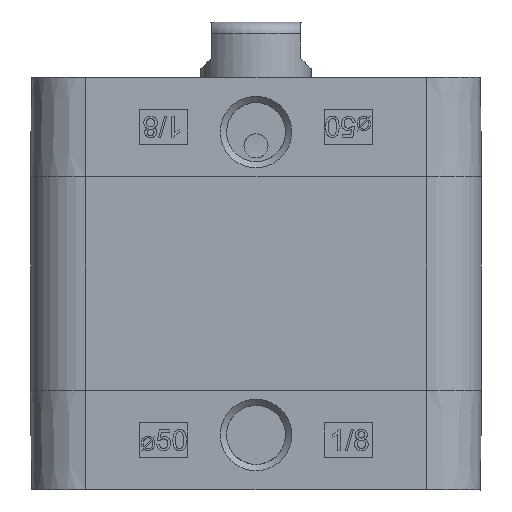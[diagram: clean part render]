
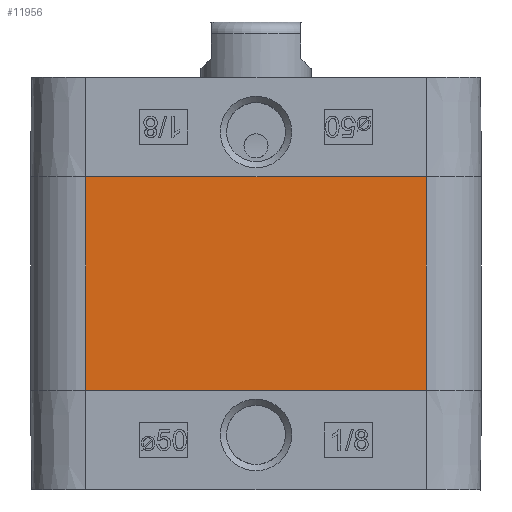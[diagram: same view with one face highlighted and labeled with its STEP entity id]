
A CAD part, left-side view. The second image highlights one B-rep face of the part: STEP entity #11956.
In plain terms, the highlighted planar face has unit normal (-1, 0, 0).
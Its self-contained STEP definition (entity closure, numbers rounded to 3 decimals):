
#1225=ORIENTED_EDGE('',*,*,#4772,.T.);
#1226=ORIENTED_EDGE('',*,*,#4771,.F.);
#1227=ORIENTED_EDGE('',*,*,#4773,.T.);
#1228=ORIENTED_EDGE('',*,*,#4774,.T.);
#4771=EDGE_CURVE('',#6544,#6543,#7759,.T.);
#4772=EDGE_CURVE('',#6545,#6543,#7760,.T.);
#4773=EDGE_CURVE('',#6544,#6546,#7761,.T.);
#4774=EDGE_CURVE('',#6546,#6545,#7762,.T.);
#6543=VERTEX_POINT('',#21604);
#6544=VERTEX_POINT('',#21606);
#6545=VERTEX_POINT('',#21610);
#6546=VERTEX_POINT('',#21612);
#7759=LINE('',#21607,#8775);
#7760=LINE('',#21609,#8776);
#7761=LINE('',#21611,#8777);
#7762=LINE('',#21613,#8778);
#8775=VECTOR('',#18331,1000.);
#8776=VECTOR('',#18334,1000.);
#8777=VECTOR('',#18335,1000.);
#8778=VECTOR('',#18336,1000.);
#9784=EDGE_LOOP('',(#1225,#1226,#1227,#1228));
#10702=FACE_BOUND('',#9784,.T.);
#11617=PLANE('',#17180);
#11956=ADVANCED_FACE('',(#10702),#11617,.T.);
#17180=AXIS2_PLACEMENT_3D('',#21608,#18332,#18333);
#18331=DIRECTION('',(0.,0.,1.));
#18332=DIRECTION('',(-1.,0.,0.));
#18333=DIRECTION('',(0.,0.,1.));
#18334=DIRECTION('',(0.,1.,0.));
#18335=DIRECTION('',(0.,-1.,0.));
#18336=DIRECTION('',(0.,0.,1.));
#21604=CARTESIAN_POINT('',(-32.75,24.75,31.));
#21606=CARTESIAN_POINT('',(-32.75,24.75,0.));
#21607=CARTESIAN_POINT('',(-32.75,24.75,0.));
#21608=CARTESIAN_POINT('',(-32.75,-24.75,0.));
#21609=CARTESIAN_POINT('',(-32.75,-24.75,31.));
#21610=CARTESIAN_POINT('',(-32.75,-24.75,31.));
#21611=CARTESIAN_POINT('',(-32.75,24.75,0.));
#21612=CARTESIAN_POINT('',(-32.75,-24.75,0.));
#21613=CARTESIAN_POINT('',(-32.75,-24.75,0.));
